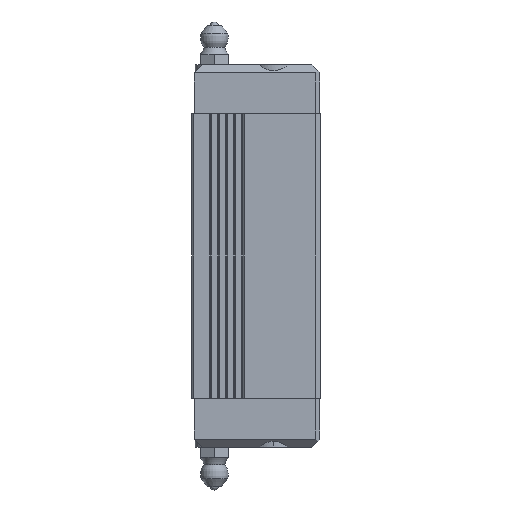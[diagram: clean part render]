
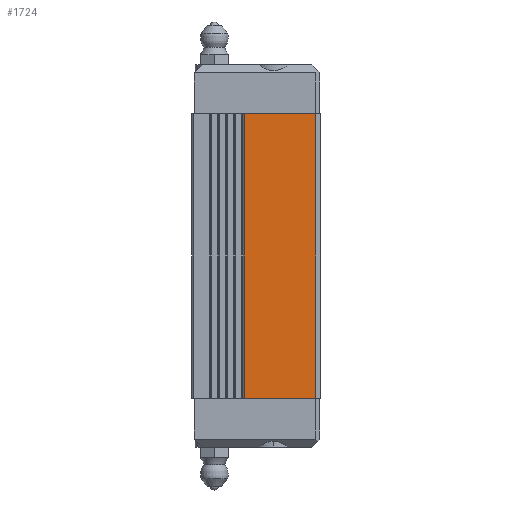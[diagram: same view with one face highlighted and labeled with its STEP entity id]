
A CAD part, left-side view. The second image highlights one B-rep face of the part: STEP entity #1724.
In plain terms, the highlighted planar face has unit normal (-1, 0, 0).
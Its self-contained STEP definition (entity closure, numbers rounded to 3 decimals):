
#1667 = EDGE_LOOP ( 'NONE', ( #1777, #1782, #1748, #1720 ) ) ;
#1716 = EDGE_CURVE ( 'NONE', #1717, #1759, #9174, .T. ) ;
#1717 = VERTEX_POINT ( 'NONE', #9170 ) ;
#1720 = ORIENTED_EDGE ( 'NONE', *, *, #1778, .T. ) ;
#1724 = ADVANCED_FACE ( 'NONE', ( #9163 ), #9162, .F. ) ;
#1725 = EDGE_CURVE ( 'NONE', #1733, #1770, #9157, .T. ) ;
#1733 = VERTEX_POINT ( 'NONE', #9207 ) ;
#1748 = ORIENTED_EDGE ( 'NONE', *, *, #1716, .F. ) ;
#1759 = VERTEX_POINT ( 'NONE', #9279 ) ;
#1770 = VERTEX_POINT ( 'NONE', #9263 ) ;
#1777 = ORIENTED_EDGE ( 'NONE', *, *, #1725, .T. ) ;
#1778 = EDGE_CURVE ( 'NONE', #1717, #1733, #9309, .T. ) ;
#1782 = ORIENTED_EDGE ( 'NONE', *, *, #1783, .F. ) ;
#1783 = EDGE_CURVE ( 'NONE', #1759, #1770, #9296, .T. ) ;
#9154 = DIRECTION ( 'NONE',  ( 0., -1., 0. ) ) ;
#9155 = VECTOR ( 'NONE', #9154, 1000. ) ;
#9156 = CARTESIAN_POINT ( 'NONE',  ( -31., 31., -35. ) ) ;
#9157 = LINE ( 'NONE', #9156, #9155 ) ;
#9158 = DIRECTION ( 'NONE',  ( 0., 0., -1. ) ) ;
#9159 = DIRECTION ( 'NONE',  ( 1., 0., 0. ) ) ;
#9160 = CARTESIAN_POINT ( 'NONE',  ( -31., 1., 35. ) ) ;
#9161 = AXIS2_PLACEMENT_3D ( 'NONE', #9160, #9159, #9158 ) ;
#9162 = PLANE ( 'NONE',  #9161 ) ;
#9163 = FACE_OUTER_BOUND ( 'NONE', #1667, .T. ) ;
#9170 = CARTESIAN_POINT ( 'NONE',  ( -31., 18.7, 35. ) ) ;
#9171 = DIRECTION ( 'NONE',  ( 0., -1., 0. ) ) ;
#9172 = VECTOR ( 'NONE', #9171, 1000. ) ;
#9173 = CARTESIAN_POINT ( 'NONE',  ( -31., 1., 35. ) ) ;
#9174 = LINE ( 'NONE', #9173, #9172 ) ;
#9207 = CARTESIAN_POINT ( 'NONE',  ( -31., 18.7, -35. ) ) ;
#9263 = CARTESIAN_POINT ( 'NONE',  ( -31., 1., -35. ) ) ;
#9279 = CARTESIAN_POINT ( 'NONE',  ( -31., 1., 35. ) ) ;
#9293 = DIRECTION ( 'NONE',  ( 0., 0., -1. ) ) ;
#9294 = VECTOR ( 'NONE', #9293, 1000. ) ;
#9295 = CARTESIAN_POINT ( 'NONE',  ( -31., 1., 35. ) ) ;
#9296 = LINE ( 'NONE', #9295, #9294 ) ;
#9306 = DIRECTION ( 'NONE',  ( 0., 0., -1. ) ) ;
#9307 = VECTOR ( 'NONE', #9306, 1000. ) ;
#9308 = CARTESIAN_POINT ( 'NONE',  ( -31., 18.7, 35. ) ) ;
#9309 = LINE ( 'NONE', #9308, #9307 ) ;
